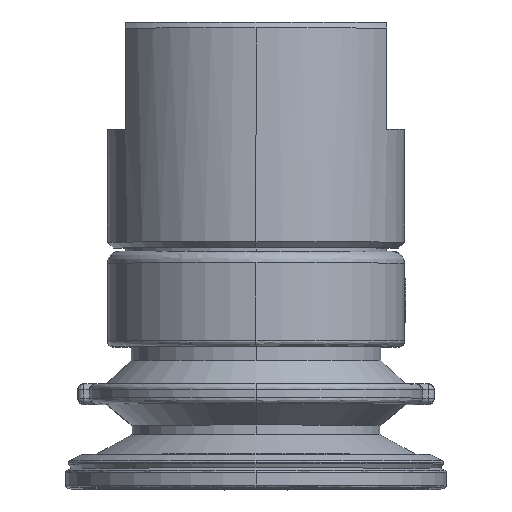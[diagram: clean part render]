
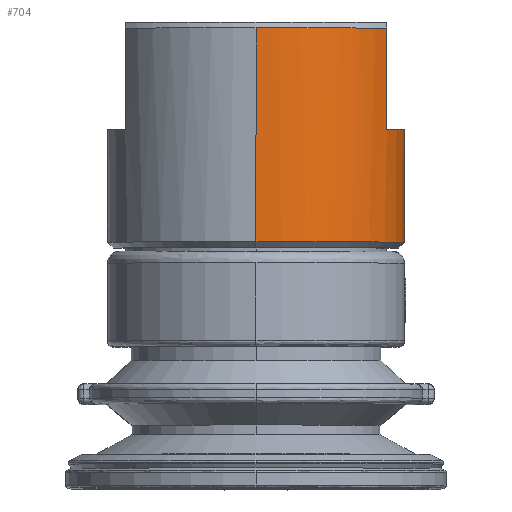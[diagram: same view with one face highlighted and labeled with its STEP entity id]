
A CAD part, top view. The second image highlights one B-rep face of the part: STEP entity #704.
In plain terms, the highlighted cylindrical face has radius 12.5 mm (diameter 25 mm), a partial arc.
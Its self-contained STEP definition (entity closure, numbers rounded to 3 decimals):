
#472 = VERTEX_POINT ( 'NONE', #13796 ) ;
#704 = ADVANCED_FACE ( 'NONE', ( #5337 ), #9366, .T. ) ;
#746 = LINE ( 'NONE', #6370, #12542 ) ;
#947 = ORIENTED_EDGE ( 'NONE', *, *, #10493, .T. ) ;
#1274 = EDGE_CURVE ( 'NONE', #472, #12357, #10119, .T. ) ;
#1311 = DIRECTION ( 'NONE',  ( 0., -1., 0. ) ) ;
#1339 = ORIENTED_EDGE ( 'NONE', *, *, #8894, .F. ) ;
#1565 = DIRECTION ( 'NONE',  ( 0., -1., 0. ) ) ;
#1722 = LINE ( 'NONE', #8459, #2505 ) ;
#2505 = VECTOR ( 'NONE', #9382, 1000. ) ;
#2530 = CARTESIAN_POINT ( 'NONE',  ( 11., 39.3, -5.937 ) ) ;
#2560 = DIRECTION ( 'NONE',  ( 0., 0., -1. ) ) ;
#2861 = EDGE_CURVE ( 'NONE', #11443, #3604, #13727, .T. ) ;
#2980 = ORIENTED_EDGE ( 'NONE', *, *, #1274, .T. ) ;
#3057 = DIRECTION ( 'NONE',  ( 0., -1., 0. ) ) ;
#3367 = CARTESIAN_POINT ( 'NONE',  ( 0., 38.8, 12.5 ) ) ;
#3604 = VERTEX_POINT ( 'NONE', #13446 ) ;
#3757 = CARTESIAN_POINT ( 'NONE',  ( 0., 30.3, 0. ) ) ;
#3931 = CARTESIAN_POINT ( 'NONE',  ( 11., 30.3, -5.937 ) ) ;
#4252 = DIRECTION ( 'NONE',  ( 0., 0., -1. ) ) ;
#4650 = VERTEX_POINT ( 'NONE', #5738 ) ;
#5036 = DIRECTION ( 'NONE',  ( 0., -1., 0. ) ) ;
#5242 = LINE ( 'NONE', #9554, #8922 ) ;
#5337 = FACE_OUTER_BOUND ( 'NONE', #13792, .T. ) ;
#5344 = CARTESIAN_POINT ( 'NONE',  ( 0., 20.8, 0. ) ) ;
#5728 = VERTEX_POINT ( 'NONE', #7164 ) ;
#5738 = CARTESIAN_POINT ( 'NONE',  ( 0., 20.8, -12.5 ) ) ;
#5921 = EDGE_CURVE ( 'NONE', #5728, #4650, #10469, .T. ) ;
#6370 = CARTESIAN_POINT ( 'NONE',  ( 11., 39.3, 5.937 ) ) ;
#6413 = AXIS2_PLACEMENT_3D ( 'NONE', #3757, #1565, #2560 ) ;
#6788 = LINE ( 'NONE', #2530, #9955 ) ;
#6891 = ORIENTED_EDGE ( 'NONE', *, *, #2861, .T. ) ;
#7164 = CARTESIAN_POINT ( 'NONE',  ( 0., 20.8, 12.5 ) ) ;
#7457 = DIRECTION ( 'NONE',  ( 0., -1., 0. ) ) ;
#7630 = VERTEX_POINT ( 'NONE', #3931 ) ;
#7885 = EDGE_CURVE ( 'NONE', #7630, #13984, #8242, .T. ) ;
#8242 = CIRCLE ( 'NONE', #6413, 12.5 ) ;
#8304 = AXIS2_PLACEMENT_3D ( 'NONE', #11142, #1311, #12295 ) ;
#8362 = CARTESIAN_POINT ( 'NONE',  ( 11., 30.3, 5.937 ) ) ;
#8459 = CARTESIAN_POINT ( 'NONE',  ( 0., 39.3, 12.5 ) ) ;
#8894 = EDGE_CURVE ( 'NONE', #11443, #4650, #5242, .T. ) ;
#8922 = VECTOR ( 'NONE', #5036, 1000. ) ;
#9087 = EDGE_CURVE ( 'NONE', #3604, #7630, #6788, .T. ) ;
#9142 = ORIENTED_EDGE ( 'NONE', *, *, #13973, .T. ) ;
#9366 = CYLINDRICAL_SURFACE ( 'NONE', #13723, 12.5 ) ;
#9382 = DIRECTION ( 'NONE',  ( 0., -1., 0. ) ) ;
#9554 = CARTESIAN_POINT ( 'NONE',  ( 0., 39.3, -12.5 ) ) ;
#9646 = DIRECTION ( 'NONE',  ( 0., 1., 0. ) ) ;
#9955 = VECTOR ( 'NONE', #13400, 1000. ) ;
#9967 = CARTESIAN_POINT ( 'NONE',  ( 0., 38.8, -12.5 ) ) ;
#10018 = AXIS2_PLACEMENT_3D ( 'NONE', #5344, #9646, #4252 ) ;
#10119 = CIRCLE ( 'NONE', #8304, 12.5 ) ;
#10469 = CIRCLE ( 'NONE', #10018, 12.5 ) ;
#10493 = EDGE_CURVE ( 'NONE', #12357, #5728, #1722, .T. ) ;
#10575 = DIRECTION ( 'NONE',  ( 0., 0., -1. ) ) ;
#10662 = CARTESIAN_POINT ( 'NONE',  ( 0., 38.8, 0. ) ) ;
#11142 = CARTESIAN_POINT ( 'NONE',  ( 0., 38.8, 0. ) ) ;
#11443 = VERTEX_POINT ( 'NONE', #9967 ) ;
#11491 = ORIENTED_EDGE ( 'NONE', *, *, #9087, .T. ) ;
#11594 = CARTESIAN_POINT ( 'NONE',  ( 0., 39.3, 0. ) ) ;
#11888 = DIRECTION ( 'NONE',  ( 0., 0., -1. ) ) ;
#12295 = DIRECTION ( 'NONE',  ( 0., 0., -1. ) ) ;
#12357 = VERTEX_POINT ( 'NONE', #3367 ) ;
#12542 = VECTOR ( 'NONE', #12596, 1000. ) ;
#12596 = DIRECTION ( 'NONE',  ( 0., 1., 0. ) ) ;
#12630 = AXIS2_PLACEMENT_3D ( 'NONE', #10662, #3057, #11888 ) ;
#13192 = ORIENTED_EDGE ( 'NONE', *, *, #5921, .T. ) ;
#13197 = ORIENTED_EDGE ( 'NONE', *, *, #7885, .T. ) ;
#13400 = DIRECTION ( 'NONE',  ( 0., -1., 0. ) ) ;
#13446 = CARTESIAN_POINT ( 'NONE',  ( 11., 38.8, -5.937 ) ) ;
#13723 = AXIS2_PLACEMENT_3D ( 'NONE', #11594, #7457, #10575 ) ;
#13727 = CIRCLE ( 'NONE', #12630, 12.5 ) ;
#13792 = EDGE_LOOP ( 'NONE', ( #2980, #947, #13192, #1339, #6891, #11491, #13197, #9142 ) ) ;
#13796 = CARTESIAN_POINT ( 'NONE',  ( 11., 38.8, 5.937 ) ) ;
#13973 = EDGE_CURVE ( 'NONE', #13984, #472, #746, .T. ) ;
#13984 = VERTEX_POINT ( 'NONE', #8362 ) ;
